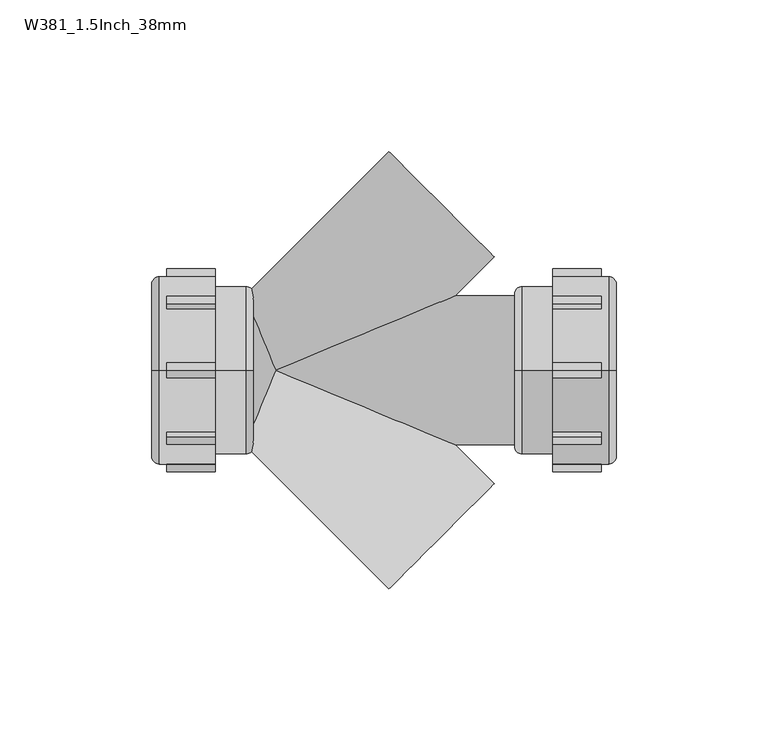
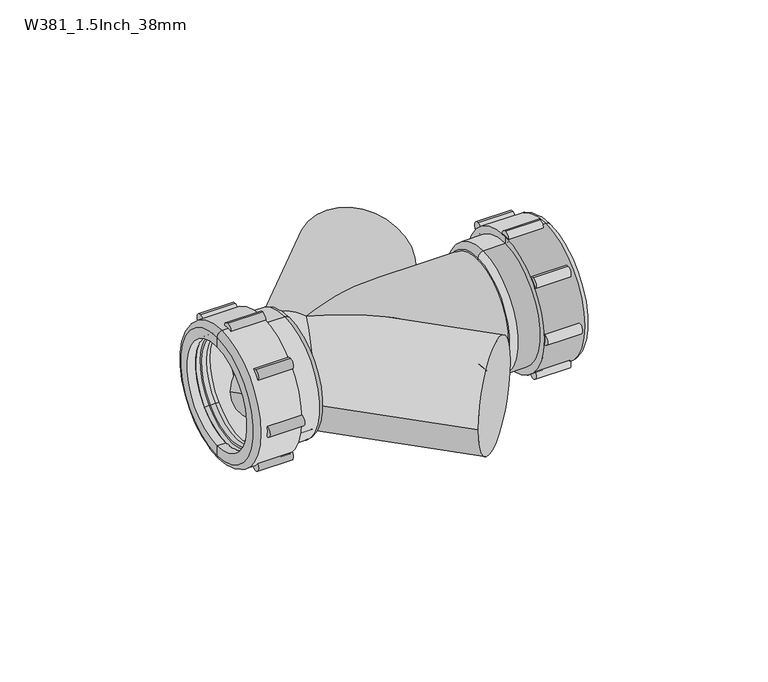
"""IFC4 building model written with IfcOpenShell, lengths in millimetres: pipe fitting geometry, Durapipe_PipeFitting_VulcatheneMechanical_DoubleWye_W38 : W381_1.5Inch_38mm."""

from ifc_helpers import new_model, si_unit, point, frame, frame_2d, origin, place, context, project, spatial, polyline, circle_curve, ellipse_curve, trimmed, segment, composite_curve, outline, extrude, source, transform, mapped, element, save
from ifc_brep_helpers import plane_surface, cylinder_surface, revolved_surface, advanced_brep


def w381_1_5inch_38mm_ffda3298(model_context):
    return source(origin(), model_context, "Body", "SolidModel", [
        advanced_brep(
        [(91.3, 0.0, 31.0), (109.7, 0.0, 31.0), (109.7, 0.0, -31.0), (91.3, 0.0, -31.0), (91.3, 0.0, 27.7), (91.3, 0.0, -27.7), (112.2, 0.0, 28.5), (112.2, 0.0, 24.0), (112.2, 0.0, -24.0), (112.2, 0.0, -28.5), (108.0, 0.0, 26.0), (91.3, 0.0, 26.0), (91.3, 0.0, -26.0), (108.0, 0.0, -26.0), (108.0, 0.0, 24.0), (108.0, 0.0, -24.0), (81.2, 0.0, 27.7), (81.2, 0.0, -27.7), (78.7, 0.0, 25.2), (78.7, 0.0, -25.2), (78.7, 0.0, 0.0), (91.3, 0.0, 0.0)],
        [
            (0, 1),
            (1, 2, circle_curve(frame((109.7, 0.0, 0.0), z_axis=(-1.0, 0.0, 0.0), x_axis=(0.0, 0.0, -1.0000000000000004)), 31.0)),
            (2, 3),
            (3, 0, circle_curve(frame((91.3, 0.0, 0.0), z_axis=(1.0, 0.0, 0.0), x_axis=(0.0, 0.0, -1.0000000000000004)), 31.0)),
            (2, 1, circle_curve(frame((109.7, 0.0, 0.0), z_axis=(-1.0, 0.0, 0.0), x_axis=(0.0, 0.0, -1.0000000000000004)), 31.0)),
            (0, 3, circle_curve(frame((91.3, 0.0, 0.0), z_axis=(1.0, 0.0, 0.0), x_axis=(0.0, 0.0, -1.0000000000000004)), 31.0)),
            (4, 0),
            (3, 5),
            (5, 4, circle_curve(frame((91.3, 0.0, 0.0), z_axis=(1.0, 0.0, 0.0), x_axis=(0.0, 0.0, -1.0000000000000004)), 27.7)),
            (4, 5, circle_curve(frame((91.3, 0.0, 0.0), z_axis=(1.0, 0.0, 0.0), x_axis=(0.0, 0.0, -1.0000000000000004)), 27.7)),
            (6, 7),
            (7, 8, circle_curve(frame((112.2, 0.0, 0.0), z_axis=(-1.0, 0.0, 0.0), x_axis=(0.0, 0.0, -1.0000000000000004)), 24.0)),
            (8, 9),
            (9, 6, circle_curve(frame((112.2, 0.0, 0.0), z_axis=(1.0, 0.0, 0.0), x_axis=(0.0, 0.0, -1.0000000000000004)), 28.5)),
            (8, 7, circle_curve(frame((112.2, 0.0, 0.0), z_axis=(-1.0, 0.0, 0.0), x_axis=(0.0, 0.0, -1.0000000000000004)), 24.0)),
            (6, 9, circle_curve(frame((112.2, 0.0, 0.0), z_axis=(1.0, 0.0, 0.0), x_axis=(0.0, 0.0, -1.0000000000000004)), 28.5)),
            (1, 6, circle_curve(frame((109.7, 0.0, 28.5), z_axis=(0.0, 1.0000000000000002, 0.0), x_axis=(1.0000000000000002, 0.0, 0.0)), 2.5)),
            (9, 2, circle_curve(frame((109.7, 0.0, -28.5), z_axis=(0.0, 1.0000000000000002, 0.0), x_axis=(1.0000000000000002, 0.0, 0.0)), 2.5)),
            (10, 11),
            (11, 12, circle_curve(frame((91.3, 0.0, 0.0), z_axis=(-1.0, 0.0, 0.0), x_axis=(0.0, 0.0, -1.0000000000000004)), 26.0)),
            (12, 13),
            (13, 10, circle_curve(frame((108.0, 0.0, 0.0), z_axis=(1.0, 0.0, 0.0), x_axis=(0.0, 0.0, -1.0000000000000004)), 26.0)),
            (12, 11, circle_curve(frame((91.3, 0.0, 0.0), z_axis=(-1.0, 0.0, 0.0), x_axis=(0.0, 0.0, -1.0000000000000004)), 26.0)),
            (10, 13, circle_curve(frame((108.0, 0.0, 0.0), z_axis=(1.0, 0.0, 0.0), x_axis=(0.0, 0.0, -1.0000000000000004)), 26.0)),
            (14, 10),
            (13, 15),
            (15, 14, circle_curve(frame((108.0, 0.0, 0.0), z_axis=(1.0, 0.0, 0.0), x_axis=(0.0, 0.0, -1.0000000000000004)), 24.0)),
            (14, 15, circle_curve(frame((108.0, 0.0, 0.0), z_axis=(1.0, 0.0, 0.0), x_axis=(0.0, 0.0, -1.0000000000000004)), 24.0)),
            (7, 14),
            (15, 8),
            (16, 4),
            (5, 17),
            (17, 16, circle_curve(frame((81.2, 0.0, 0.0), z_axis=(1.0, 0.0, 0.0), x_axis=(0.0, 0.0, -1.0000000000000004)), 27.7)),
            (16, 17, circle_curve(frame((81.2, 0.0, 0.0), z_axis=(1.0, 0.0, 0.0), x_axis=(0.0, 0.0, -1.0000000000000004)), 27.7)),
            (18, 16, circle_curve(frame((81.2, 0.0, 25.2), z_axis=(0.0, 1.0000000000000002, 0.0), x_axis=(1.0000000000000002, 0.0, 0.0)), 2.5)),
            (17, 19, circle_curve(frame((81.2, 0.0, -25.2), z_axis=(0.0, 1.0000000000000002, 0.0), x_axis=(1.0000000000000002, 0.0, 0.0)), 2.5)),
            (19, 18, circle_curve(frame((78.7, 0.0, 0.0), z_axis=(1.0, 0.0, 0.0), x_axis=(0.0, 0.0, -1.0000000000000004)), 25.2)),
            (18, 19, circle_curve(frame((78.7, 0.0, 0.0), z_axis=(1.0, 0.0, 0.0), x_axis=(0.0, 0.0, -1.0000000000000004)), 25.2)),
            (20, 18),
            (19, 20),
            (11, 21),
            (21, 12),
        ],
        [
            cylinder_surface(frame((1673.0018184, 0.0, 0.0), z_axis=(-1.0000000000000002, 0.0, 0.0), x_axis=(0.0, 0.0, -1.0000000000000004)), 31.0),
            plane_surface(frame((91.3, 0.0, 0.0), z_axis=(-1.0, 0.0, 0.0), x_axis=(0.0, 0.0, -1.0))),
            plane_surface(frame((112.2, 0.0, 0.0), z_axis=(1.0, 0.0, 0.0), x_axis=(0.0, 0.0, -1.0))),
            revolved_surface(trimmed(ellipse_curve(frame((109.7, 0.0, -28.5), z_axis=(0.0, 1.0000000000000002, 0.0), x_axis=(1.0000000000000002, 0.0, 0.0)), 2.5, 2.5), [point((112.2, 0.0, -28.5))], [point((109.7, 0.0, -31.0))], True, "CARTESIAN"), (1673.0018184, 0.0, 0.0), (-1.0000000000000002, 0.0, 0.0)),
            revolved_surface(polyline([(91.29999999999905, 0.0, -26.00000000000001), (107.99999999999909, 0.0, -26.00000000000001)]), (1673.0018184, 0.0, 0.0), (-1.0000000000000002, 0.0, 0.0)),
            plane_surface(frame((108.0, 0.0, 0.0), z_axis=(-1.0, 0.0, 0.0), x_axis=(0.0, 0.0, -1.0))),
            revolved_surface(polyline([(107.99999999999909, 0.0, -24.00000000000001), (112.19999999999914, 0.0, -24.00000000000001)]), (1673.0018184, 0.0, 0.0), (-1.0000000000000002, 0.0, 0.0)),
            cylinder_surface(frame((1673.0018184, 0.0, 0.0), z_axis=(-1.0000000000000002, 0.0, 0.0), x_axis=(0.0, 0.0, -1.0000000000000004)), 27.7),
            revolved_surface(trimmed(ellipse_curve(frame((81.2, 0.0, -25.2), z_axis=(0.0, 1.0000000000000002, 0.0), x_axis=(1.0000000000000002, 0.0, 0.0)), 2.5, 2.5), [point((81.2, 0.0, -27.7))], [point((78.7, 0.0, -25.2))], True, "CARTESIAN"), (1673.0018184, 0.0, 0.0), (-1.0000000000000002, 0.0, 0.0)),
            plane_surface(frame((78.7, 0.0, 0.0), z_axis=(-1.0, 0.0, 0.0), x_axis=(0.0, 0.0, -1.0))),
            plane_surface(frame((91.3, 0.0, 0.0), z_axis=(1.0, 0.0, 0.0), x_axis=(0.0, 0.0, -1.0))),
        ],
        [
            (0, [[1, 2, 3, 4]]),
            (0, [[-3, 5, -1, 6]]),
            (1, [[7, -4, 8, 9]]),
            (1, [[-8, -6, -7, 10]]),
            (2, [[11, 12, 13, 14]]),
            (2, [[-13, 15, -11, 16]]),
            (3, [[17, -14, 18, -2]]),
            (3, [[-18, -16, -17, -5]]),
            (4, [[19, 20, 21, 22]]),
            (4, [[-21, 23, -19, 24]]),
            (5, [[25, -22, 26, 27]]),
            (5, [[-26, -24, -25, 28]]),
            (6, [[29, -27, 30, -12]]),
            (6, [[-30, -28, -29, -15]]),
            (7, [[31, -9, 32, 33]]),
            (7, [[-32, -10, -31, 34]]),
            (8, [[35, -33, 36, 37]]),
            (8, [[-36, -34, -35, 38]]),
            (9, [[39, -37, 40]]),
            (9, [[-40, -38, -39]]),
            (10, [[41, 42, -20]]),
            (10, [[-42, -41, -23]]),
        ],
    ),
        extrude(outline(composite_curve([segment(trimmed(circle_curve(frame_2d((-31.0, 0.0)), 2.5), [point((-31.0, 2.5))], [point((-31.0, -2.5))], False, "CARTESIAN"), True, "CONTINUOUS"), segment(trimmed(circle_curve(frame_2d((-31.0, 0.0)), 2.5), [point((-31.0, -2.5))], [point((-31.0, 2.5))], False, "CARTESIAN"), True, "CONTINUOUS")], self_intersect=False)), frame((91.3, 0.0, 0.0), z_axis=(1.0, 0.0, 0.0), x_axis=(0.0, 1.0, 0.0)), (0.0, 0.0, 1.0), 15.9),
        extrude(outline(composite_curve([segment(trimmed(circle_curve(frame_2d((-21.9203102, -21.9203102)), 2.5), [point((-21.9203102, -19.4203102))], [point((-21.9203102, -24.4203102))], False, "CARTESIAN"), True, "CONTINUOUS"), segment(trimmed(circle_curve(frame_2d((-21.9203102, -21.9203102)), 2.5), [point((-21.9203102, -24.4203102))], [point((-21.9203102, -19.4203102))], False, "CARTESIAN"), True, "CONTINUOUS")], self_intersect=False)), frame((91.3, 0.0, 0.0), z_axis=(1.0, 0.0, 0.0), x_axis=(0.0, 1.0, 0.0)), (0.0, 0.0, 1.0), 15.9),
        extrude(outline(composite_curve([segment(trimmed(circle_curve(frame_2d((0.0, -31.0)), 2.5), [point((0.0, -28.5))], [point((0.0, -33.5))], False, "CARTESIAN"), True, "CONTINUOUS"), segment(trimmed(circle_curve(frame_2d((0.0, -31.0)), 2.5), [point((0.0, -33.5))], [point((0.0, -28.5))], False, "CARTESIAN"), True, "CONTINUOUS")], self_intersect=False)), frame((91.3, 0.0, 0.0), z_axis=(1.0, 0.0, 0.0), x_axis=(0.0, 1.0, 0.0)), (0.0, 0.0, 1.0), 15.9),
        extrude(outline(composite_curve([segment(trimmed(circle_curve(frame_2d((21.9203102, -21.9203102)), 2.5), [point((21.9203102, -19.4203102))], [point((21.9203102, -24.4203102))], False, "CARTESIAN"), True, "CONTINUOUS"), segment(trimmed(circle_curve(frame_2d((21.9203102, -21.9203102)), 2.5), [point((21.9203102, -24.4203102))], [point((21.9203102, -19.4203102))], False, "CARTESIAN"), True, "CONTINUOUS")], self_intersect=False)), frame((91.3, 0.0, 0.0), z_axis=(1.0, 0.0, 0.0), x_axis=(0.0, 1.0, 0.0)), (0.0, 0.0, 1.0), 15.9),
        extrude(outline(composite_curve([segment(trimmed(circle_curve(frame_2d((31.0, 0.0)), 2.5), [point((31.0, 2.5))], [point((31.0, -2.5))], False, "CARTESIAN"), True, "CONTINUOUS"), segment(trimmed(circle_curve(frame_2d((31.0, 0.0)), 2.5), [point((31.0, -2.5))], [point((31.0, 2.5))], False, "CARTESIAN"), True, "CONTINUOUS")], self_intersect=False)), frame((91.3, 0.0, 0.0), z_axis=(1.0, 0.0, 0.0), x_axis=(0.0, 1.0, 0.0)), (0.0, 0.0, 1.0), 15.9),
        extrude(outline(composite_curve([segment(trimmed(circle_curve(frame_2d((21.9203102, 21.9203102)), 2.5), [point((21.9203102, 24.4203102))], [point((21.9203102, 19.4203102))], False, "CARTESIAN"), True, "CONTINUOUS"), segment(trimmed(circle_curve(frame_2d((21.9203102, 21.9203102)), 2.5), [point((21.9203102, 19.4203102))], [point((21.9203102, 24.4203102))], False, "CARTESIAN"), True, "CONTINUOUS")], self_intersect=False)), frame((91.3, 0.0, 0.0), z_axis=(1.0, 0.0, 0.0), x_axis=(0.0, 1.0, 0.0)), (0.0, 0.0, 1.0), 15.9),
        extrude(outline(composite_curve([segment(trimmed(circle_curve(frame_2d((0.0, 31.0)), 2.5), [point((0.0, 33.5))], [point((0.0, 28.5))], False, "CARTESIAN"), True, "CONTINUOUS"), segment(trimmed(circle_curve(frame_2d((0.0, 31.0)), 2.5), [point((0.0, 28.5))], [point((0.0, 33.5))], False, "CARTESIAN"), True, "CONTINUOUS")], self_intersect=False)), frame((91.3, 0.0, 0.0), z_axis=(1.0, 0.0, 0.0), x_axis=(0.0, 1.0, 0.0)), (0.0, 0.0, 1.0), 15.9),
        extrude(outline(composite_curve([segment(trimmed(circle_curve(frame_2d((-21.9203102, 21.9203102)), 2.5), [point((-21.9203102, 24.4203102))], [point((-21.9203102, 19.4203102))], False, "CARTESIAN"), True, "CONTINUOUS"), segment(trimmed(circle_curve(frame_2d((-21.9203102, 21.9203102)), 2.5), [point((-21.9203102, 19.4203102))], [point((-21.9203102, 24.4203102))], False, "CARTESIAN"), True, "CONTINUOUS")], self_intersect=False)), frame((91.3, 0.0, 0.0), z_axis=(1.0, 0.0, 0.0), x_axis=(0.0, 1.0, 0.0)), (0.0, 0.0, 1.0), 15.9),
        advanced_brep(
        [(-36.6, 18.5969083, -18.5969083), (-36.6, 17.1119841, -17.1119841), (-36.6, -17.1119841, 17.1119841), (-36.6, -18.5969083, 18.5969083), (-31.6, 18.3140656, -18.3140656), (-31.6, -18.3140656, 18.3140656), (-30.1, 18.1019336, -18.1019336), (-31.6, 18.1019336, -18.1019336), (-31.6, -18.1019336, 18.1019336), (-30.1, -18.1019336, 18.1019336), (-30.1, -17.1119841, 17.1119841), (-30.1, 17.1119841, -17.1119841), (-32.1, -17.1119841, 17.1119841), (-32.1, 17.1119841, -17.1119841), (-32.1, -16.5462987, 16.5462987), (-32.1, 16.5462987, -16.5462987), (-34.4, 17.1119841, -17.1119841), (-34.4, 16.5462987, -16.5462987), (-34.4, -16.5462987, 16.5462987), (-34.4, -17.1119841, 17.1119841)],
        [
            (0, 1),
            (1, 2, circle_curve(frame((-36.6, 0.0, 0.0), z_axis=(1.0, 0.0, 0.0), x_axis=(0.0, -0.7071067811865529, 0.7071067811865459)), 24.2)),
            (2, 3),
            (3, 0, circle_curve(frame((-36.6, 0.0, 0.0), z_axis=(-1.0, 0.0, 0.0), x_axis=(0.0, -0.7071067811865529, 0.7071067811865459)), 26.3)),
            (2, 1, circle_curve(frame((-36.6, 0.0, 0.0), z_axis=(1.0, 0.0, 0.0), x_axis=(0.0, -0.7071067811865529, 0.7071067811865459)), 24.2)),
            (0, 3, circle_curve(frame((-36.6, 0.0, 0.0), z_axis=(-1.0, 0.0, 0.0), x_axis=(0.0, -0.7071067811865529, 0.7071067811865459)), 26.3)),
            (4, 0),
            (3, 5),
            (5, 4, circle_curve(frame((-31.6, 0.0, 0.0), z_axis=(-1.0, 0.0, 0.0), x_axis=(0.0, -0.7071067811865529, 0.7071067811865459)), 25.9)),
            (4, 5, circle_curve(frame((-31.6, 0.0, 0.0), z_axis=(-1.0, 0.0, 0.0), x_axis=(0.0, -0.7071067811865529, 0.7071067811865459)), 25.9)),
            (6, 7),
            (7, 8, circle_curve(frame((-31.6, 0.0, 0.0), z_axis=(1.0, 0.0, 0.0), x_axis=(0.0, -0.7071067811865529, 0.7071067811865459)), 25.6)),
            (8, 9),
            (9, 6, circle_curve(frame((-30.1, 0.0, 0.0), z_axis=(-1.0, 0.0, 0.0), x_axis=(0.0, -0.7071067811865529, 0.7071067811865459)), 25.6)),
            (8, 7, circle_curve(frame((-31.6, 0.0, 0.0), z_axis=(1.0, 0.0, 0.0), x_axis=(0.0, -0.7071067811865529, 0.7071067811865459)), 25.6)),
            (6, 9, circle_curve(frame((-30.1, 0.0, 0.0), z_axis=(-1.0, 0.0, 0.0), x_axis=(0.0, -0.7071067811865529, 0.7071067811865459)), 25.6)),
            (9, 10),
            (10, 11, circle_curve(frame((-30.1, 0.0, 0.0), z_axis=(-1.0, 0.0, 0.0), x_axis=(0.0, -0.7071067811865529, 0.7071067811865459)), 24.2)),
            (11, 6),
            (11, 10, circle_curve(frame((-30.1, 0.0, 0.0), z_axis=(-1.0, 0.0, 0.0), x_axis=(0.0, -0.7071067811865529, 0.7071067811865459)), 24.2)),
            (10, 12),
            (12, 13, circle_curve(frame((-32.1, 0.0, 0.0), z_axis=(-1.0, 0.0, 0.0), x_axis=(0.0, -0.7071067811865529, 0.7071067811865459)), 24.2)),
            (13, 11),
            (13, 12, circle_curve(frame((-32.1, 0.0, 0.0), z_axis=(-1.0, 0.0, 0.0), x_axis=(0.0, -0.7071067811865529, 0.7071067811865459)), 24.2)),
            (12, 14),
            (14, 15, circle_curve(frame((-32.1, 0.0, 0.0), z_axis=(-1.0, 0.0, 0.0), x_axis=(0.0, -0.7071067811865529, 0.7071067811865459)), 23.4)),
            (15, 13),
            (15, 14, circle_curve(frame((-32.1, 0.0, 0.0), z_axis=(-1.0, 0.0, 0.0), x_axis=(0.0, -0.7071067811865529, 0.7071067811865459)), 23.4)),
            (16, 17),
            (17, 18, circle_curve(frame((-34.4, 0.0, 0.0), z_axis=(1.0, 0.0, 0.0), x_axis=(0.0, -0.7071067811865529, 0.7071067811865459)), 23.4)),
            (18, 19),
            (19, 16, circle_curve(frame((-34.4, 0.0, 0.0), z_axis=(-1.0, 0.0, 0.0), x_axis=(0.0, -0.7071067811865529, 0.7071067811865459)), 24.2)),
            (18, 17, circle_curve(frame((-34.4, 0.0, 0.0), z_axis=(1.0, 0.0, 0.0), x_axis=(0.0, -0.7071067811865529, 0.7071067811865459)), 23.4)),
            (16, 19, circle_curve(frame((-34.4, 0.0, 0.0), z_axis=(-1.0, 0.0, 0.0), x_axis=(0.0, -0.7071067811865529, 0.7071067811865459)), 24.2)),
            (1, 16),
            (19, 2),
            (14, 18),
            (17, 15),
            (5, 8),
            (7, 4),
        ],
        [
            plane_surface(frame((-36.6, 0.0, 0.0), z_axis=(-1.0, 0.0, 0.0), x_axis=(0.0, -0.707106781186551, 0.707106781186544))),
            revolved_surface(polyline([(-36.6, -18.5969083, 18.5969083), (-31.6, -18.3140656, 18.3140656)]), (-41.6, 0.0, 0.0), (1.0000000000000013, 0.0, 0.0)),
            cylinder_surface(frame((-28.0293443, 0.0, 0.0), z_axis=(1.0000000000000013, 0.0, 0.0), x_axis=(0.0, -0.7071067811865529, 0.7071067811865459)), 25.6),
            plane_surface(frame((-30.1, 0.0, 0.0), z_axis=(1.0, 0.0, 0.0), x_axis=(0.0, -0.707106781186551, 0.707106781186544))),
            revolved_surface(polyline([(-30.10000000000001, -17.11198410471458, 17.11198410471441), (-32.100000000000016, -17.11198410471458, 17.11198410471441)]), (-26.607009, 0.0, 0.0), (1.0000000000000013, 0.0, 0.0)),
            plane_surface(frame((-32.1, 0.0, 0.0), z_axis=(1.0, 0.0, 0.0), x_axis=(0.0, -0.707106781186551, 0.707106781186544))),
            plane_surface(frame((-34.4, 0.0, 0.0), z_axis=(-1.0, 0.0, 0.0), x_axis=(0.0, -0.707106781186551, 0.707106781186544))),
            revolved_surface(polyline([(-34.39999999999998, -17.11198410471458, 17.11198410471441), (-36.59999999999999, -17.11198410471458, 17.11198410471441)]), (-41.6, 0.0, 0.0), (1.0000000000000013, 0.0, 0.0)),
            revolved_surface(polyline([(-32.09999999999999, -16.546298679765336, 16.546298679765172), (-34.39999999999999, -16.546298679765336, 16.546298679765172)]), (-38.1661924, 0.0, 0.0), (1.0000000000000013, 0.0, 0.0)),
            plane_surface(frame((-31.6, 0.0, 0.0), z_axis=(1.0, 0.0, 0.0), x_axis=(0.0, -0.707106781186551, 0.707106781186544))),
        ],
        [
            (0, [[1, 2, 3, 4]]),
            (0, [[5, -1, 6, -3]]),
            (1, [[7, -4, 8, 9]]),
            (1, [[-8, -6, -7, 10]]),
            (2, [[11, 12, 13, 14]]),
            (2, [[15, -11, 16, -13]]),
            (3, [[17, 18, 19, -14]]),
            (3, [[-19, 20, -17, -16]]),
            (4, [[-18, 21, 22, 23]]),
            (4, [[24, -21, -20, -23]]),
            (5, [[25, 26, 27, -22]]),
            (5, [[-27, 28, -25, -24]]),
            (6, [[29, 30, 31, 32]]),
            (6, [[-31, 33, -29, 34]]),
            (7, [[35, -32, 36, -2]]),
            (7, [[-36, -34, -35, -5]]),
            (8, [[-26, 37, -30, 38]]),
            (8, [[-33, -37, -28, -38]]),
            (9, [[39, -12, 40, -9]]),
            (9, [[-40, -15, -39, -10]]),
        ],
    ),
        advanced_brep(
        [(-19.9, 0.0, -31.0), (-38.3, 0.0, -31.0), (-38.3, 0.0, 31.0), (-19.9, 0.0, 31.0), (-19.9, 0.0, -27.7), (-19.9, 0.0, 27.7), (-40.8, 0.0, -28.5), (-40.8, 0.0, -24.0), (-40.8, 0.0, 24.0), (-40.8, 0.0, 28.5), (-36.6, 0.0, -26.0), (-19.9, 0.0, -26.0), (-19.9, 0.0, 26.0), (-36.6, 0.0, 26.0), (-36.6, 0.0, -24.0), (-36.6, 0.0, 24.0), (-9.8, 0.0, -27.7), (-9.8, 0.0, 27.7), (-7.3, 0.0, -25.2), (-7.3, 0.0, 25.2), (-7.3, 0.0, 0.0), (-19.9, 0.0, 0.0)],
        [
            (0, 1),
            (1, 2, circle_curve(frame((-38.3, 0.0, 0.0), z_axis=(1.0, 0.0, 0.0), x_axis=(0.0, 0.0, 1.0000000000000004)), 31.0)),
            (2, 3),
            (3, 0, circle_curve(frame((-19.9, 0.0, 0.0), z_axis=(-1.0, 0.0, 0.0), x_axis=(0.0, 0.0, 1.0000000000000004)), 31.0)),
            (2, 1, circle_curve(frame((-38.3, 0.0, 0.0), z_axis=(1.0, 0.0, 0.0), x_axis=(0.0, 0.0, 1.0000000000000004)), 31.0)),
            (0, 3, circle_curve(frame((-19.9, 0.0, 0.0), z_axis=(-1.0, 0.0, 0.0), x_axis=(0.0, 0.0, 1.0000000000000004)), 31.0)),
            (4, 0),
            (3, 5),
            (5, 4, circle_curve(frame((-19.9, 0.0, 0.0), z_axis=(-1.0, 0.0, 0.0), x_axis=(0.0, 0.0, 1.0000000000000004)), 27.7)),
            (4, 5, circle_curve(frame((-19.9, 0.0, 0.0), z_axis=(-1.0, 0.0, 0.0), x_axis=(0.0, 0.0, 1.0000000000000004)), 27.7)),
            (6, 7),
            (7, 8, circle_curve(frame((-40.8, 0.0, 0.0), z_axis=(1.0, 0.0, 0.0), x_axis=(0.0, 0.0, 1.0000000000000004)), 24.0)),
            (8, 9),
            (9, 6, circle_curve(frame((-40.8, 0.0, 0.0), z_axis=(-1.0, 0.0, 0.0), x_axis=(0.0, 0.0, 1.0000000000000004)), 28.5)),
            (8, 7, circle_curve(frame((-40.8, 0.0, 0.0), z_axis=(1.0, 0.0, 0.0), x_axis=(0.0, 0.0, 1.0000000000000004)), 24.0)),
            (6, 9, circle_curve(frame((-40.8, 0.0, 0.0), z_axis=(-1.0, 0.0, 0.0), x_axis=(0.0, 0.0, 1.0000000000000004)), 28.5)),
            (1, 6, circle_curve(frame((-38.3, 0.0, -28.5), z_axis=(0.0, 1.0000000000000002, 0.0), x_axis=(-1.0000000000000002, 0.0, 0.0)), 2.5)),
            (9, 2, circle_curve(frame((-38.3, 0.0, 28.5), z_axis=(0.0, 1.0000000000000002, 0.0), x_axis=(-1.0000000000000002, 0.0, 0.0)), 2.5)),
            (10, 11),
            (11, 12, circle_curve(frame((-19.9, 0.0, 0.0), z_axis=(1.0, 0.0, 0.0), x_axis=(0.0, 0.0, 1.0000000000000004)), 26.0)),
            (12, 13),
            (13, 10, circle_curve(frame((-36.6, 0.0, 0.0), z_axis=(-1.0, 0.0, 0.0), x_axis=(0.0, 0.0, 1.0000000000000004)), 26.0)),
            (12, 11, circle_curve(frame((-19.9, 0.0, 0.0), z_axis=(1.0, 0.0, 0.0), x_axis=(0.0, 0.0, 1.0000000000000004)), 26.0)),
            (10, 13, circle_curve(frame((-36.6, 0.0, 0.0), z_axis=(-1.0, 0.0, 0.0), x_axis=(0.0, 0.0, 1.0000000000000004)), 26.0)),
            (14, 10),
            (13, 15),
            (15, 14, circle_curve(frame((-36.6, 0.0, 0.0), z_axis=(-1.0, 0.0, 0.0), x_axis=(0.0, 0.0, 1.0000000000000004)), 24.0)),
            (14, 15, circle_curve(frame((-36.6, 0.0, 0.0), z_axis=(-1.0, 0.0, 0.0), x_axis=(0.0, 0.0, 1.0000000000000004)), 24.0)),
            (7, 14),
            (15, 8),
            (16, 4),
            (5, 17),
            (17, 16, circle_curve(frame((-9.8, 0.0, 0.0), z_axis=(-1.0, 0.0, 0.0), x_axis=(0.0, 0.0, 1.0000000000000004)), 27.7)),
            (16, 17, circle_curve(frame((-9.8, 0.0, 0.0), z_axis=(-1.0, 0.0, 0.0), x_axis=(0.0, 0.0, 1.0000000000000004)), 27.7)),
            (18, 16, circle_curve(frame((-9.8, 0.0, -25.2), z_axis=(0.0, 1.0000000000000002, 0.0), x_axis=(-1.0000000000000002, 0.0, 0.0)), 2.5)),
            (17, 19, circle_curve(frame((-9.8, 0.0, 25.2), z_axis=(0.0, 1.0000000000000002, 0.0), x_axis=(-1.0000000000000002, 0.0, 0.0)), 2.5)),
            (19, 18, circle_curve(frame((-7.3, 0.0, 0.0), z_axis=(-1.0, 0.0, 0.0), x_axis=(0.0, 0.0, 1.0000000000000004)), 25.2)),
            (18, 19, circle_curve(frame((-7.3, 0.0, 0.0), z_axis=(-1.0, 0.0, 0.0), x_axis=(0.0, 0.0, 1.0000000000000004)), 25.2)),
            (20, 18),
            (19, 20),
            (11, 21),
            (21, 12),
        ],
        [
            cylinder_surface(frame((-1601.6018184, 0.0, 0.0), z_axis=(1.0000000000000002, 0.0, 0.0), x_axis=(0.0, 0.0, 1.0000000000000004)), 31.0),
            plane_surface(frame((-19.9, 0.0, 0.0), z_axis=(1.0, 0.0, 0.0), x_axis=(0.0, 0.0, 1.0))),
            plane_surface(frame((-40.8, 0.0, 0.0), z_axis=(-1.0, 0.0, 0.0), x_axis=(0.0, 0.0, 1.0))),
            revolved_surface(trimmed(ellipse_curve(frame((-38.3, 0.0, 28.5), z_axis=(0.0, 1.0000000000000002, 0.0), x_axis=(-1.0000000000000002, 0.0, 0.0)), 2.5, 2.5), [point((-40.8, 0.0, 28.5))], [point((-38.3, 0.0, 31.0))], True, "CARTESIAN"), (-1601.6018184, 0.0, 0.0), (1.0000000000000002, 0.0, 0.0)),
            revolved_surface(polyline([(-19.89999999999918, 0.0, 26.00000000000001), (-36.599999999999, 0.0, 26.00000000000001)]), (-1601.6018184, 0.0, 0.0), (1.0000000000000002, 0.0, 0.0)),
            plane_surface(frame((-36.6, 0.0, 0.0), z_axis=(1.0, 0.0, 0.0), x_axis=(0.0, 0.0, 1.0))),
            revolved_surface(polyline([(-36.599999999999, 0.0, 24.00000000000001), (-40.799999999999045, 0.0, 24.00000000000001)]), (-1601.6018184, 0.0, 0.0), (1.0000000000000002, 0.0, 0.0)),
            cylinder_surface(frame((-1601.6018184, 0.0, 0.0), z_axis=(1.0000000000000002, 0.0, 0.0), x_axis=(0.0, 0.0, 1.0000000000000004)), 27.7),
            revolved_surface(trimmed(ellipse_curve(frame((-9.8, 0.0, 25.2), z_axis=(0.0, 1.0000000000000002, 0.0), x_axis=(-1.0000000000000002, 0.0, 0.0)), 2.5, 2.5), [point((-9.8, 0.0, 27.7))], [point((-7.3, 0.0, 25.2))], True, "CARTESIAN"), (-1601.6018184, 0.0, 0.0), (1.0000000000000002, 0.0, 0.0)),
            plane_surface(frame((-7.3, 0.0, 0.0), z_axis=(1.0, 0.0, 0.0), x_axis=(0.0, 0.0, 1.0))),
            plane_surface(frame((-19.9, 0.0, 0.0), z_axis=(-1.0, 0.0, 0.0), x_axis=(0.0, 0.0, 1.0))),
        ],
        [
            (0, [[1, 2, 3, 4]]),
            (0, [[-3, 5, -1, 6]]),
            (1, [[7, -4, 8, 9]]),
            (1, [[-8, -6, -7, 10]]),
            (2, [[11, 12, 13, 14]]),
            (2, [[-13, 15, -11, 16]]),
            (3, [[17, -14, 18, -2]]),
            (3, [[-18, -16, -17, -5]]),
            (4, [[19, 20, 21, 22]]),
            (4, [[-21, 23, -19, 24]]),
            (5, [[25, -22, 26, 27]]),
            (5, [[-26, -24, -25, 28]]),
            (6, [[29, -27, 30, -12]]),
            (6, [[-30, -28, -29, -15]]),
            (7, [[31, -9, 32, 33]]),
            (7, [[-32, -10, -31, 34]]),
            (8, [[35, -33, 36, 37]]),
            (8, [[-36, -34, -35, 38]]),
            (9, [[39, -37, 40]]),
            (9, [[-40, -38, -39]]),
            (10, [[41, 42, -20]]),
            (10, [[-42, -41, -23]]),
        ],
    ),
        extrude(outline(composite_curve([segment(trimmed(circle_curve(frame_2d((-31.0, 0.0)), 2.5), [point((-31.0, -2.5))], [point((-31.0, 2.5))], False, "CARTESIAN"), True, "CONTINUOUS"), segment(trimmed(circle_curve(frame_2d((-31.0, 0.0)), 2.5), [point((-31.0, 2.5))], [point((-31.0, -2.5))], False, "CARTESIAN"), True, "CONTINUOUS")], self_intersect=False)), frame((-35.8, 0.0, 0.0), z_axis=(1.0, 0.0, 0.0), x_axis=(0.0, 1.0, 0.0)), (0.0, 0.0, 1.0), 15.9),
        extrude(outline(composite_curve([segment(trimmed(circle_curve(frame_2d((-21.9203102, 21.9203102)), 2.5), [point((-21.9203102, 19.4203102))], [point((-21.9203102, 24.4203102))], False, "CARTESIAN"), True, "CONTINUOUS"), segment(trimmed(circle_curve(frame_2d((-21.9203102, 21.9203102)), 2.5), [point((-21.9203102, 24.4203102))], [point((-21.9203102, 19.4203102))], False, "CARTESIAN"), True, "CONTINUOUS")], self_intersect=False)), frame((-35.8, 0.0, 0.0), z_axis=(1.0, 0.0, 0.0), x_axis=(0.0, 1.0, 0.0)), (0.0, 0.0, 1.0), 15.9),
        extrude(outline(composite_curve([segment(trimmed(circle_curve(frame_2d((0.0, 31.0)), 2.5), [point((0.0, 28.5))], [point((0.0, 33.5))], False, "CARTESIAN"), True, "CONTINUOUS"), segment(trimmed(circle_curve(frame_2d((0.0, 31.0)), 2.5), [point((0.0, 33.5))], [point((0.0, 28.5))], False, "CARTESIAN"), True, "CONTINUOUS")], self_intersect=False)), frame((-35.8, 0.0, 0.0), z_axis=(1.0, 0.0, 0.0), x_axis=(0.0, 1.0, 0.0)), (0.0, 0.0, 1.0), 15.9),
        extrude(outline(composite_curve([segment(trimmed(circle_curve(frame_2d((21.9203102, 21.9203102)), 2.5), [point((21.9203102, 19.4203102))], [point((21.9203102, 24.4203102))], False, "CARTESIAN"), True, "CONTINUOUS"), segment(trimmed(circle_curve(frame_2d((21.9203102, 21.9203102)), 2.5), [point((21.9203102, 24.4203102))], [point((21.9203102, 19.4203102))], False, "CARTESIAN"), True, "CONTINUOUS")], self_intersect=False)), frame((-35.8, 0.0, 0.0), z_axis=(1.0, 0.0, 0.0), x_axis=(0.0, 1.0, 0.0)), (0.0, 0.0, 1.0), 15.9),
        extrude(outline(composite_curve([segment(trimmed(circle_curve(frame_2d((31.0, 0.0)), 2.5), [point((31.0, -2.5))], [point((31.0, 2.5))], False, "CARTESIAN"), True, "CONTINUOUS"), segment(trimmed(circle_curve(frame_2d((31.0, 0.0)), 2.5), [point((31.0, 2.5))], [point((31.0, -2.5))], False, "CARTESIAN"), True, "CONTINUOUS")], self_intersect=False)), frame((-35.8, 0.0, 0.0), z_axis=(1.0, 0.0, 0.0), x_axis=(0.0, 1.0, 0.0)), (0.0, 0.0, 1.0), 15.9),
        extrude(outline(composite_curve([segment(trimmed(circle_curve(frame_2d((21.9203102, -21.9203102)), 2.5), [point((21.9203102, -24.4203102))], [point((21.9203102, -19.4203102))], False, "CARTESIAN"), True, "CONTINUOUS"), segment(trimmed(circle_curve(frame_2d((21.9203102, -21.9203102)), 2.5), [point((21.9203102, -19.4203102))], [point((21.9203102, -24.4203102))], False, "CARTESIAN"), True, "CONTINUOUS")], self_intersect=False)), frame((-35.8, 0.0, 0.0), z_axis=(1.0, 0.0, 0.0), x_axis=(0.0, 1.0, 0.0)), (0.0, 0.0, 1.0), 15.9),
        extrude(outline(composite_curve([segment(trimmed(circle_curve(frame_2d((0.0, -31.0)), 2.5), [point((0.0, -33.5))], [point((0.0, -28.5))], False, "CARTESIAN"), True, "CONTINUOUS"), segment(trimmed(circle_curve(frame_2d((0.0, -31.0)), 2.5), [point((0.0, -28.5))], [point((0.0, -33.5))], False, "CARTESIAN"), True, "CONTINUOUS")], self_intersect=False)), frame((-35.8, 0.0, 0.0), z_axis=(1.0, 0.0, 0.0), x_axis=(0.0, 1.0, 0.0)), (0.0, 0.0, 1.0), 15.9),
        extrude(outline(composite_curve([segment(trimmed(circle_curve(frame_2d((-21.9203102, -21.9203102)), 2.5), [point((-21.9203102, -24.4203102))], [point((-21.9203102, -19.4203102))], False, "CARTESIAN"), True, "CONTINUOUS"), segment(trimmed(circle_curve(frame_2d((-21.9203102, -21.9203102)), 2.5), [point((-21.9203102, -19.4203102))], [point((-21.9203102, -24.4203102))], False, "CARTESIAN"), True, "CONTINUOUS")], self_intersect=False)), frame((-35.8, 0.0, 0.0), z_axis=(1.0, 0.0, 0.0), x_axis=(0.0, 1.0, 0.0)), (0.0, 0.0, 1.0), 15.9),
        advanced_brep(
        [(-19.9, 24.5, 0.0), (-19.9, -24.5, 0.0), (-19.9, 0.0, 20.0560465), (-19.9, -14.7482323, 0.0), (-19.9, 0.0, -20.0560465), (-19.9, 14.7482323, 0.0), (91.3, 24.5, 0.0), (91.3, -24.5, 0.0), (-10.1482323, -24.5, 0.0), (0.0, 0.0, 24.5), (-10.1482323, 24.5, 0.0), (59.1482323, 24.5, 0.0), (59.1482323, -24.5, 0.0), (0.0, 0.0, -24.5), (37.335238, -71.9834703, 0.0), (71.9834703, -37.335238, 0.0), (37.335238, 71.9834703, 0.0), (71.9834703, 37.335238, 0.0), (-34.6482323, 0.0, 0.0)],
        [
            (0, 1, circle_curve(frame((-19.9, 0.0, 0.0), z_axis=(-1.0, 0.0, 0.0), x_axis=(0.0, -1.0, 0.0)), 24.5)),
            (1, 0, circle_curve(frame((-19.9, 0.0, 0.0), z_axis=(-1.0, 0.0, 0.0), x_axis=(0.0, -1.0, 0.0)), 24.5)),
            (2, 3, ellipse_curve(frame((-19.9, 19.9, 0.0), z_axis=(1.0, 0.0, 0.0), x_axis=(0.0, -1.0, 0.0)), 34.6482323, 24.5)),
            (3, 4, ellipse_curve(frame((-19.9, 19.9, 0.0), z_axis=(1.0, 0.0, 0.0), x_axis=(0.0, -1.0, 0.0)), 34.6482323, 24.5)),
            (4, 5, ellipse_curve(frame((-19.9, -19.9, 0.0), z_axis=(1.0, 0.0, 0.0), x_axis=(0.0, -1.0, 0.0)), 34.6482323, 24.5)),
            (5, 2, ellipse_curve(frame((-19.9, -19.9, 0.0), z_axis=(1.0, 0.0, 0.0), x_axis=(0.0, -1.0, 0.0)), 34.6482323, 24.5)),
            (6, 7, circle_curve(frame((91.3, 0.0, 0.0), z_axis=(1.0, 0.0, 0.0), x_axis=(0.0, -1.0, 0.0)), 24.5)),
            (7, 6, circle_curve(frame((91.3, 0.0, 0.0), z_axis=(1.0, 0.0, 0.0), x_axis=(0.0, -1.0, 0.0)), 24.5)),
            (1, 8),
            (8, 9, ellipse_curve(frame((0.0, 0.0, 0.0), z_axis=(-0.9238795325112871, 0.38268343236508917, 0.0), x_axis=(-0.3826834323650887, -0.9238795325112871, 0.0)), 26.5186089, 24.5)),
            (9, 10, ellipse_curve(frame((0.0, 0.0, 0.0), z_axis=(-0.9238795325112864, -0.38268343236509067, 0.0), x_axis=(-0.3826834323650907, 0.9238795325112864, 0.0)), 26.5186089, 24.5)),
            (10, 0),
            (6, 11),
            (11, 9, ellipse_curve(frame((0.0, 0.0, 0.0), z_axis=(0.3826834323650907, -0.9238795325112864, 0.0), x_axis=(-0.9238795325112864, -0.3826834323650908, 0.0)), 64.0215853, 24.5)),
            (9, 12, ellipse_curve(frame((0.0, 0.0, 0.0), z_axis=(0.38268343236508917, 0.923879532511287, 0.0), x_axis=(-0.9238795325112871, 0.38268343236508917, 0.0)), 64.0215853, 24.5)),
            (12, 7),
            (10, 13, ellipse_curve(frame((0.0, 0.0, 0.0), z_axis=(-0.9238795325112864, -0.38268343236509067, 0.0), x_axis=(-0.3826834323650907, 0.9238795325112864, 0.0)), 26.5186089, 24.5)),
            (13, 8, ellipse_curve(frame((0.0, 0.0, 0.0), z_axis=(-0.9238795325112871, 0.38268343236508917, 0.0), x_axis=(-0.3826834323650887, -0.9238795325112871, 0.0)), 26.5186089, 24.5)),
            (12, 13, ellipse_curve(frame((0.0, 0.0, 0.0), z_axis=(0.38268343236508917, 0.923879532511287, 0.0), x_axis=(-0.9238795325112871, 0.38268343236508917, 0.0)), 64.0215853, 24.5)),
            (13, 11, ellipse_curve(frame((0.0, 0.0, 0.0), z_axis=(0.3826834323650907, -0.9238795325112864, 0.0), x_axis=(-0.9238795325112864, -0.3826834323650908, 0.0)), 64.0215853, 24.5)),
            (14, 15, circle_curve(frame((54.6593542, -54.6593542, 0.0), z_axis=(0.7071067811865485, -0.7071067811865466, 0.0), x_axis=(0.7071067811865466, 0.7071067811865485, 0.0)), 24.5)),
            (15, 14, circle_curve(frame((54.6593542, -54.6593542, 0.0), z_axis=(0.7071067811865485, -0.7071067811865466, 0.0), x_axis=(0.7071067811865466, 0.7071067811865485, 0.0)), 24.5)),
            (16, 17, circle_curve(frame((54.6593542, 54.6593542, 0.0), z_axis=(0.7071067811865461, 0.7071067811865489, 0.0), x_axis=(0.7071067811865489, -0.7071067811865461, 0.0)), 24.5)),
            (17, 16, circle_curve(frame((54.6593542, 54.6593542, 0.0), z_axis=(0.7071067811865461, 0.7071067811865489, 0.0), x_axis=(0.7071067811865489, -0.7071067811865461, 0.0)), 24.5)),
            (16, 10),
            (11, 17),
            (18, 2, ellipse_curve(frame((0.0, 0.0, 0.0), z_axis=(0.0, 1.0, 0.0), x_axis=(-1.0, 0.0, 0.0)), 34.6482323, 24.5)),
            (5, 18),
            (4, 18, ellipse_curve(frame((0.0, 0.0, 0.0), z_axis=(0.0, 1.0, 0.0), x_axis=(-1.0, 0.0, 0.0)), 34.6482323, 24.5)),
            (18, 3),
            (15, 12),
            (8, 14),
        ],
        [
            plane_surface(frame((-19.9, 0.0, 0.0), z_axis=(-1.0, 0.0, 0.0), x_axis=(0.0, 0.0, 1.0))),
            plane_surface(frame((91.3, 0.0, 0.0), z_axis=(1.0, 0.0, 0.0), x_axis=(0.0, 0.0, 1.0))),
            cylinder_surface(frame((-19.9, 0.0, 0.0), z_axis=(-1.0, 0.0, 0.0), x_axis=(0.0, -1.0, 0.0)), 24.5),
            plane_surface(frame((54.6593542, -54.6593542, 0.0), z_axis=(0.7071067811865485, -0.7071067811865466, 0.0), x_axis=(0.0, 0.0, 1.0))),
            plane_surface(frame((54.6593542, 54.6593542, 0.0), z_axis=(0.7071067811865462, 0.7071067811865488, 0.0), x_axis=(0.0, 0.0, 1.0))),
            cylinder_surface(frame((0.0, 0.0, 0.0), z_axis=(-0.7071067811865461, -0.7071067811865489, 0.0), x_axis=(0.7071067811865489, -0.7071067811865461, 0.0)), 24.5),
            cylinder_surface(frame((54.6593542, -54.6593542, 0.0), z_axis=(0.7071067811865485, -0.7071067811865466, 0.0), x_axis=(0.7071067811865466, 0.7071067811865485, 0.0)), 24.5),
        ],
        [
            (0, [[1, 2], [3, 4, 5, 6]]),
            (1, [[7, 8]]),
            (2, [[9, 10, 11, 12, -2]]),
            (2, [[13, 14, 15, 16, -7]]),
            (2, [[-12, 17, 18, -9, -1]]),
            (2, [[-16, 19, 20, -13, -8]]),
            (3, [[21, 22]]),
            (4, [[23, 24]]),
            (5, [[25, -11, -14, 26, -23]]),
            (5, [[27, -6, 28]]),
            (5, [[-5, 29, -28]]),
            (5, [[-26, -20, -17, -25, -24]]),
            (6, [[-3, -27, 30]]),
            (6, [[31, -15, -10, 32, -22]]),
            (6, [[-29, -4, -30]]),
            (6, [[-32, -18, -19, -31, -21]]),
        ],
    ),
    ])


if __name__ == "__main__":
    model = new_model("IFC4")
    model_context = context("Model", 3, world=origin())
    ifc_project = project(units=[si_unit("LENGTHUNIT", "METRE", prefix="MILLI")], contexts=[model_context])
    site = spatial("IfcSite", under=ifc_project)
    building = spatial("IfcBuilding", under=site)
    placement = place(None, origin())
    w381_1_5inch_38mm_shape = w381_1_5inch_38mm_ffda3298(model_context)
    element("IfcPipeFitting", 1, ObjectType="Durapipe_PipeFitting_VulcatheneMechanical_DoubleWye_W38 : W381_1.5Inch_38mm", at=placement, inside=building, context=model_context, shape_type="MappedRepresentation", body=[
        mapped(w381_1_5inch_38mm_shape, transform((0.0, 0.0, 0.0), x_axis=(1.0, 0.0, 0.0), y_axis=(0.0, 1.0, 0.0), z_axis=(0.0, 0.0, 1.0))),
    ])
    save(model, "model.ifc")
